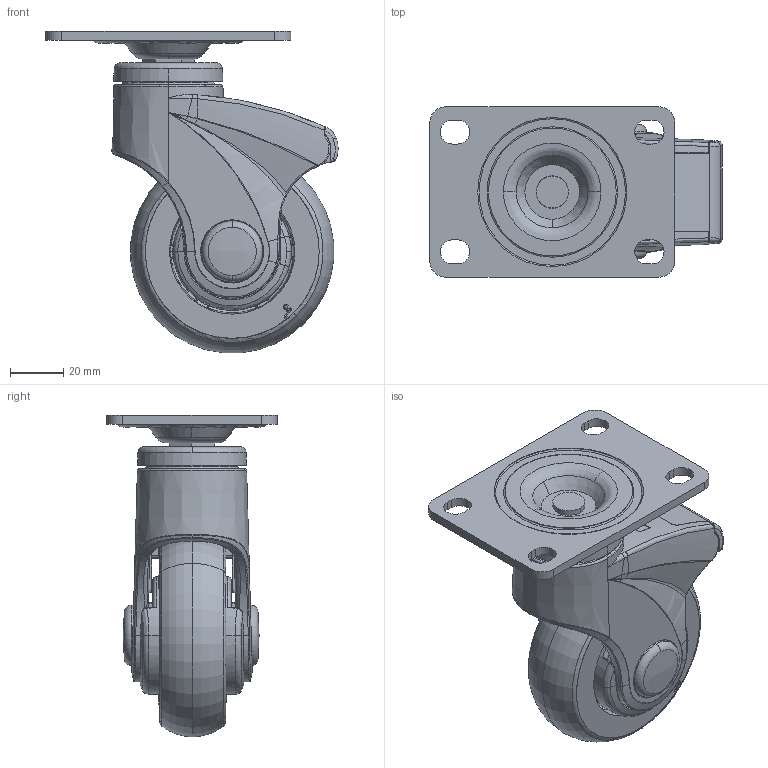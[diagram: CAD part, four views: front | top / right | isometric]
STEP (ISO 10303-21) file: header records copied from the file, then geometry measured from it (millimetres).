
FILE_DESCRIPTION(/* description */ (''),/* implementation_level */ '2;1');
FILE_NAME(/* name */ '80N01_3_F.stp',/* time_stamp */ '2022-10-17T15:40:44+08:00',/* author */ (''),/* organization */ (''),/* preprocessor_version */ 'ST-DEVELOPER v14',/* originating_system */ 'SIEMENS PLM Software NX 8.0',/* authorisation */ '');
FILE_SCHEMA (('AUTOMOTIVE_DESIGN { 1 0 10303 214 3 1 1 1 }'));
Products named in the file (1): 80N01_3_F
Bounding box: 109.81 x 64 x 120.83 mm (x, y, z)
Volume: 188760.5 mm3; surface area: 81853.8 mm2
Topology: 1 solids, 18 shells, 2140 faces, 5974 edges, 3894 vertices
Faces by surface type: plane 1113, cylinder 497, bspline 236, torus 147, cone 119, sphere 28
Full cylindrical faces by diameter (mm): 9.7 x4
Entity records: 90910 total; most frequent: CARTESIAN_POINT 40162, ORIENTED_EDGE 11876, DIRECTION 8854, EDGE_CURVE 5938, VERTEX_POINT 3890, AXIS2_PLACEMENT_3D 3063, LINE 2728, VECTOR 2728
